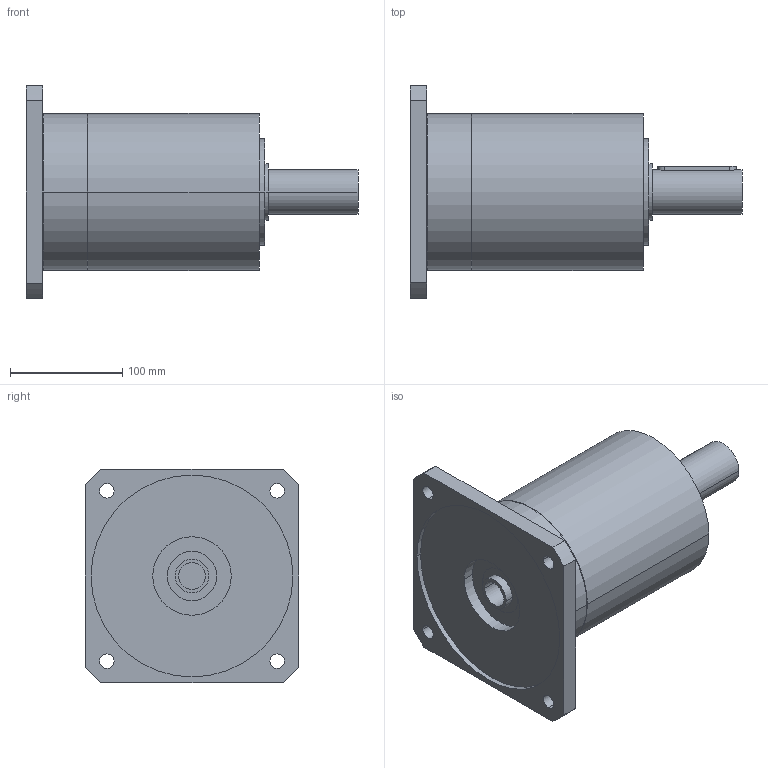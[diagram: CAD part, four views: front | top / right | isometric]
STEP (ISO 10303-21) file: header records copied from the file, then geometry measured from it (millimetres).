
FILE_DESCRIPTION(('CoCreate Modeling STEP Export'),'2;1');
FILE_NAME('GPR150_ig-9-12-16-20-28-35_40_B14_24_P06.stp','2014-08-19T17:03:32',(''),(''),'CoCreate Modeling STEP processor for AP214 (Solid Model)','CoCreate Modeling 16.00C 25-Feb-2009 (C) Parametric Technology GmbH','');
FILE_SCHEMA(('AUTOMOTIVE_DESIGN { 1 0 10303 214 1 1 1 1 }'));
Length unit declared in the file: millimetre
Products named in the file (2): GPR150_ig-9-12-16-20-28-35_40_B14_24_P06
Assembly tree (1 placements, depth 2):
  GPR150_ig-9-12-16-20-28-35_40_B14_24_P06
    GPR150_ig-9-12-16-20-28-35_40_B14_24_P06
Bounding box: 296 x 190 x 190 mm (x, y, z)
Volume: 3455904 mm3; surface area: 196275 mm2
Topology: 1 solids, 1 shells, 73 faces, 195 edges, 137 vertices
Faces by surface type: cylinder 44, plane 23, cone 6
Entity records: 2038 total; most frequent: CARTESIAN_POINT 396, ORIENTED_EDGE 386, DIRECTION 274, EDGE_CURVE 193, VERTEX_POINT 137, AXIS2_PLACEMENT_3D 103, EDGE_LOOP 96, FACE_OUTER_BOUND 73
